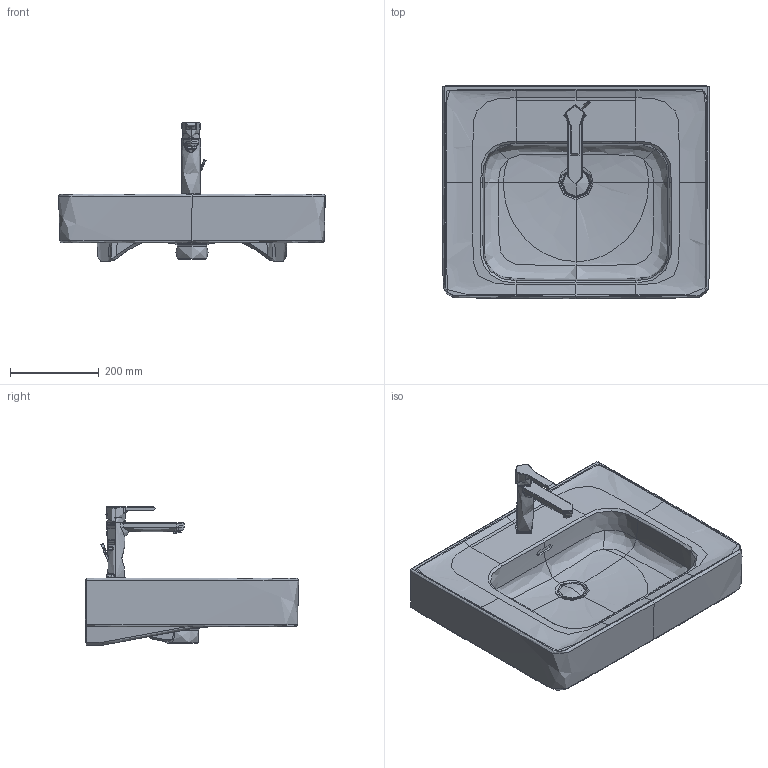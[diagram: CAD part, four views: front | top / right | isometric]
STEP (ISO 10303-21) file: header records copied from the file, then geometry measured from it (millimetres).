
FILE_DESCRIPTION(/* description */ (''),/* implementation_level */ '2;1');
FILE_NAME(/* name */ '237760',/* time_stamp */ '2021-10-25T10:42:25+02:00',/* author */ (''),/* organization */ (''),/* preprocessor_version */ 'ST-DEVELOPER v15',/* originating_system */ '',/* authorisation */ '');
FILE_SCHEMA (('AUTOMOTIVE_DESIGN'));
Length unit declared in the file: millimetre
Products named in the file (1): Document
Bounding box: 599.86 x 479.93 x 311.07 mm (x, y, z)
Volume: 133228.5 mm3; surface area: 1145792.4 mm2
Topology: 10 solids, 15 shells, 887 faces, 2173 edges, 1298 vertices
Faces by surface type: bspline 734, plane 153
Entity records: 116066 total; most frequent: CARTESIAN_POINT 103618, ORIENTED_EDGE 4270, EDGE_CURVE 2148, VERTEX_POINT 1298, B_SPLINE_CURVE_WITH_KNOTS 1194, EDGE_LOOP 943, ADVANCED_FACE 887, FACE_OUTER_BOUND 887
